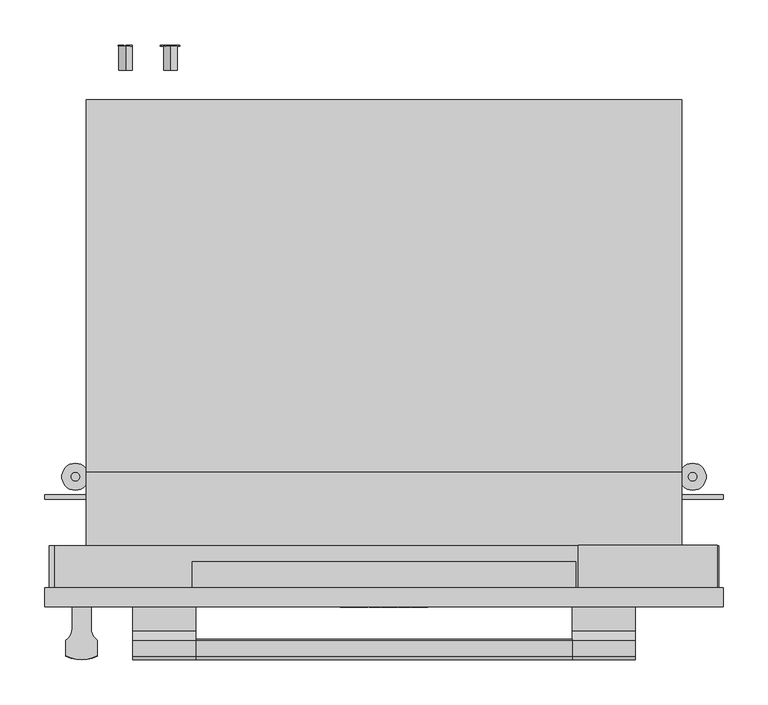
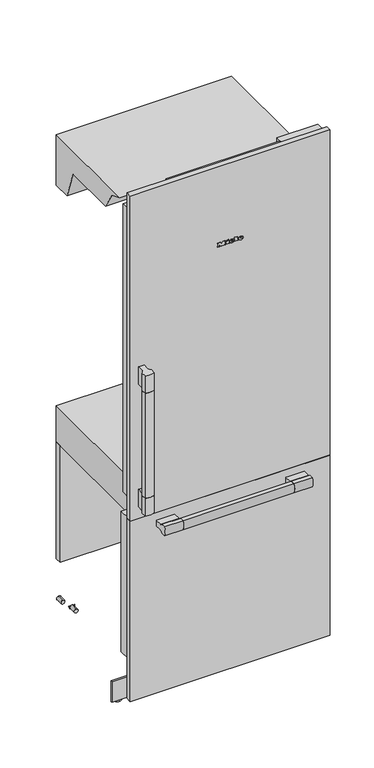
"""IFC4 building model written with IfcOpenShell, lengths in millimetres: proxy geometry, 11502900_USA_KF2802SF : 38280211_USA_11502900_KF2802SF."""

from ifc_helpers import new_model, si_unit, point, frame, frame_2d, origin, place, context, project, spatial, polyline, circle_curve, ellipse_curve, trimmed, segment, composite_curve, outline, extrude, source, transform, mapped, element, save
from ifc_brep_helpers import plane_surface, cylinder_surface, revolved_surface, extruded_surface, advanced_brep


def specialty_equipment_bdf38fb7(model_context):
    return source(origin(), model_context, "Body", "SolidModel", [
        extrude(outline(polyline([(247.0, -133.0), (205.0, -133.0), (205.0, -118.5), (90.0, -118.5), (90.0, -105.5), (205.0, -105.5), (205.0, -91.0), (247.0, -91.0), (247.0, -133.0)])), frame((0.0, 21.0, 0.0), z_axis=(0.0, 1.0, 0.0), x_axis=(0.0, 0.0, 1.0)), (0.0, 0.0, 1.0), 54.0),
        extrude(outline(polyline([(-367.0, 68.0), (367.0, 68.0), (367.0, 21.0), (-367.0, 21.0), (-367.0, 68.0)])), frame((0.0, 0.0, 883.0), z_axis=(0.0, 0.0, 1.0), x_axis=(1.0, 0.0, 0.0)), (0.0, 0.0, 1.0), 1153.0),
        extrude(outline(polyline([(-373.0, 68.0), (373.0, 68.0), (373.0, 21.0), (-373.0, 21.0), (-373.0, 68.0)])), frame((0.0, 0.0, 247.0), z_axis=(0.0, 0.0, 1.0), x_axis=(1.0, 0.0, 0.0)), (0.0, 0.0, 1.0), 562.0),
        extrude(outline(polyline([(-213.5, 50.0), (213.5, 50.0), (213.5, 21.0), (-213.5, 21.0), (-213.5, 50.0)])), frame((0.0, 0.0, 2036.0), z_axis=(0.0, 0.0, 1.0), x_axis=(1.0, 0.0, 0.0)), (0.0, 0.0, 1.0), 56.0),
        extrude(outline(polyline([(-378.0, 21.0), (378.0, 21.0), (378.0, 0.0), (-378.0, 0.0), (-378.0, 21.0)])), frame((0.0, 0.0, 812.0), z_axis=(0.0, 0.0, 1.0), x_axis=(1.0, 0.0, 0.0)), (0.0, 0.0, 1.0), 1299.0),
        advanced_brep(
        [(-210.0, -37.692095, 787.5), (-210.0, -55.0, 787.5), (-210.0, -59.0, 770.0), (-210.0, -55.0, 752.5), (-210.0, -37.692095, 752.5), (-210.0, -27.0, 759.5), (-210.0, 0.0, 759.5), (-210.0, 0.0, 780.5), (-210.0, -27.0, 780.5), (-280.0, 0.0, 780.5), (-280.0, 0.0, 759.5), (-280.0, -27.0, 759.5), (-280.0, -37.692095, 752.5), (-280.0, -55.0, 752.5), (-280.0, -59.0, 770.0), (-280.0, -55.0, 787.5), (-280.0, -37.692095, 787.5), (-280.0, -27.0, 780.5)],
        [
            (0, 1),
            (1, 2, circle_curve(frame((-210.0, -18.71875, 770.0), z_axis=(1.0, 0.0, 0.0), x_axis=(0.0, 0.0, 1.0)), 40.28125)),
            (2, 3, circle_curve(frame((-210.0, -18.71875, 770.0), z_axis=(1.0, 0.0, 0.0), x_axis=(0.0, 0.0, 1.0)), 40.28125)),
            (3, 4),
            (4, 5, circle_curve(frame((-210.0, -27.0, 747.8342217), z_axis=(-1.0, 0.0, 0.0), x_axis=(0.0, 0.0, 1.0)), 11.6657783)),
            (5, 6),
            (6, 7),
            (7, 8),
            (8, 0, circle_curve(frame((-210.0, -27.0, 792.1657783), z_axis=(-1.0, 0.0, 0.0), x_axis=(0.0, 0.0, 1.0)), 11.6657783)),
            (9, 10),
            (10, 11),
            (11, 12, circle_curve(frame((-280.0, -27.0, 747.8342217), z_axis=(1.0, 0.0, 0.0), x_axis=(0.0, 0.0, 1.0)), 11.6657783)),
            (12, 13),
            (13, 14, circle_curve(frame((-280.0, -18.71875, 770.0), z_axis=(-1.0, 0.0, 0.0), x_axis=(0.0, 0.0, 1.0)), 40.28125)),
            (14, 15, circle_curve(frame((-280.0, -18.71875, 770.0), z_axis=(-1.0, 0.0, 0.0), x_axis=(0.0, 0.0, 1.0)), 40.28125)),
            (15, 16),
            (16, 17, circle_curve(frame((-280.0, -27.0, 792.1657783), z_axis=(1.0, 0.0, 0.0), x_axis=(0.0, 0.0, 1.0)), 11.6657783)),
            (17, 9),
            (0, 16),
            (15, 1),
            (3, 13),
            (12, 4),
            (6, 10),
            (9, 7),
            (17, 8),
            (5, 11),
        ],
        [
            plane_surface(frame((-210.0, -59.0, 787.5), z_axis=(1.0, 0.0, 0.0), x_axis=(0.0, -1.0, 0.0))),
            plane_surface(frame((-280.0, -59.0, 787.5), z_axis=(-1.0, 0.0, 0.0), x_axis=(0.0, 1.0, 0.0))),
            plane_surface(frame((-210.0, 0.0, 787.5), z_axis=(0.0, 0.0, 1.0), x_axis=(-1.0, 0.0, 0.0))),
            plane_surface(frame((-210.0, -59.0, 752.5), z_axis=(0.0, 0.0, -1.0), x_axis=(-1.0, 0.0, 0.0))),
            plane_surface(frame((-210.0, 0.0, 752.5), z_axis=(0.0, 1.0, 0.0), x_axis=(-1.0, 0.0, 0.0))),
            plane_surface(frame((280.0, -27.0, 780.5), z_axis=(0.0, 0.0, 1.0), x_axis=(-1.0, 0.0, 0.0))),
            plane_surface(frame((280.0, 0.0, 759.5), z_axis=(0.0, 0.0, -1.0), x_axis=(-1.0, 0.0, 0.0))),
            revolved_surface(polyline([(-210.0, -27.0, 759.5), (-280.0, -27.0, 759.5)]), (-280.0, -27.0, 747.8342217), (1.0, 0.0, 0.0)),
            cylinder_surface(frame((-280.0, -18.71875, 770.0), z_axis=(-1.0, 0.0, 0.0), x_axis=(0.0, 0.0, 1.0)), 40.28125),
            revolved_surface(polyline([(-210.0, -27.0, 803.8315566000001), (-280.0, -27.0, 803.8315566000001)]), (-280.0, -27.0, 792.1657783), (1.0, 0.0, 0.0)),
        ],
        [
            (0, [[1, 2, 3, 4, 5, 6, 7, 8, 9]]),
            (1, [[10, 11, 12, 13, 14, 15, 16, 17, 18]]),
            (2, [[-1, 19, -16, 20]]),
            (3, [[-4, 21, -13, 22]]),
            (4, [[-7, 23, -10, 24]]),
            (5, [[25, -8, -24, -18]]),
            (6, [[26, -11, -23, -6]]),
            (7, [[-26, -5, -22, -12]]),
            (8, [[-2, -20, -15, -14, -21, -3]]),
            (9, [[-25, -17, -19, -9]]),
        ],
    ),
        advanced_brep(
        [(210.0, -37.692095, 787.5), (210.0, -55.0, 787.5), (210.0, -59.0, 770.0), (210.0, -55.0, 752.5), (210.0, -37.692095, 752.5), (210.0, -36.0, 755.2565113), (210.0, -36.0, 784.7434887), (-210.0, -37.692095, 752.5), (-210.0, -55.0, 752.5), (-210.0, -59.0, 770.0), (-210.0, -55.0, 787.5), (-210.0, -37.692095, 787.5), (-210.0, -36.0, 784.7434887), (-210.0, -36.0, 755.2565113)],
        [
            (0, 1),
            (1, 2, circle_curve(frame((210.0, -18.71875, 770.0), z_axis=(1.0, 0.0, 0.0), x_axis=(0.0, 0.0, 1.0)), 40.28125)),
            (2, 3, circle_curve(frame((210.0, -18.71875, 770.0), z_axis=(1.0, 0.0, 0.0), x_axis=(0.0, 0.0, 1.0)), 40.28125)),
            (3, 4),
            (4, 5, circle_curve(frame((210.0, -27.0, 747.8342217), z_axis=(-1.0, 0.0, 0.0), x_axis=(0.0, 0.0, 1.0)), 11.6657783)),
            (5, 6),
            (6, 0, circle_curve(frame((210.0, -27.0, 792.1657783), z_axis=(-1.0, 0.0, 0.0), x_axis=(0.0, 0.0, 1.0)), 11.6657783)),
            (7, 8),
            (8, 9, circle_curve(frame((-210.0, -18.71875, 770.0), z_axis=(-1.0, 0.0, 0.0), x_axis=(0.0, 0.0, 1.0)), 40.28125)),
            (9, 10, circle_curve(frame((-210.0, -18.71875, 770.0), z_axis=(-1.0, 0.0, 0.0), x_axis=(0.0, 0.0, 1.0)), 40.28125)),
            (10, 11),
            (11, 12, circle_curve(frame((-210.0, -27.0, 792.1657783), z_axis=(1.0, 0.0, 0.0), x_axis=(0.0, 0.0, 1.0)), 11.6657783)),
            (12, 13),
            (13, 7, circle_curve(frame((-210.0, -27.0, 747.8342217), z_axis=(1.0, 0.0, 0.0), x_axis=(0.0, 0.0, 1.0)), 11.6657783)),
            (0, 11),
            (10, 1),
            (3, 8),
            (7, 4),
            (13, 5),
            (6, 12),
        ],
        [
            plane_surface(frame((210.0, -59.0, 787.5), z_axis=(1.0, 0.0, 0.0), x_axis=(0.0, -1.0, 0.0))),
            plane_surface(frame((-210.0, -59.0, 787.5), z_axis=(-1.0, 0.0, 0.0), x_axis=(0.0, 1.0, 0.0))),
            plane_surface(frame((210.0, 0.0, 787.5), z_axis=(0.0, 0.0, 1.0), x_axis=(-1.0, 0.0, 0.0))),
            plane_surface(frame((210.0, -59.0, 752.5), z_axis=(0.0, 0.0, -1.0), x_axis=(-1.0, 0.0, 0.0))),
            revolved_surface(polyline([(210.0, -27.0, 759.5), (-210.0, -27.0, 759.5)]), (-280.0, -27.0, 747.8342217), (1.0, 0.0, 0.0)),
            cylinder_surface(frame((-280.0, -18.71875, 770.0), z_axis=(-1.0, 0.0, 0.0), x_axis=(0.0, 0.0, 1.0)), 40.28125),
            revolved_surface(polyline([(210.0, -27.0, 803.8315566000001), (-210.0, -27.0, 803.8315566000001)]), (-280.0, -27.0, 792.1657783), (1.0, 0.0, 0.0)),
            plane_surface(frame((210.0, -36.0, 788.0), z_axis=(0.0, 1.0, 0.0), x_axis=(-1.0, 0.0, 0.0))),
        ],
        [
            (0, [[1, 2, 3, 4, 5, 6, 7]]),
            (1, [[8, 9, 10, 11, 12, 13, 14]]),
            (2, [[-1, 15, -11, 16]]),
            (3, [[-4, 17, -8, 18]]),
            (4, [[-18, -14, 19, -5]]),
            (5, [[-2, -16, -10, -9, -17, -3]]),
            (6, [[-15, -7, 20, -12]]),
            (7, [[-6, -19, -13, -20]]),
        ],
    ),
        advanced_brep(
        [(280.0, -37.692095, 787.5), (280.0, -55.0, 787.5), (280.0, -59.0, 770.0), (280.0, -55.0, 752.5), (280.0, -37.692095, 752.5), (280.0, -27.0, 759.5), (280.0, 0.0, 759.5), (280.0, 0.0, 780.5), (280.0, -27.0, 780.5), (210.0, 0.0, 780.5), (210.0, 0.0, 759.5), (210.0, -27.0, 759.5), (210.0, -37.692095, 752.5), (210.0, -55.0, 752.5), (210.0, -59.0, 770.0), (210.0, -55.0, 787.5), (210.0, -37.692095, 787.5), (210.0, -27.0, 780.5)],
        [
            (0, 1),
            (1, 2, circle_curve(frame((280.0, -18.71875, 770.0), z_axis=(1.0, 0.0, 0.0), x_axis=(0.0, 0.0, 1.0)), 40.28125)),
            (2, 3, circle_curve(frame((280.0, -18.71875, 770.0), z_axis=(1.0, 0.0, 0.0), x_axis=(0.0, 0.0, 1.0)), 40.28125)),
            (3, 4),
            (4, 5, circle_curve(frame((280.0, -27.0, 747.8342217), z_axis=(-1.0, 0.0, 0.0), x_axis=(0.0, 0.0, 1.0)), 11.6657783)),
            (5, 6),
            (6, 7),
            (7, 8),
            (8, 0, circle_curve(frame((280.0, -27.0, 792.1657783), z_axis=(-1.0, 0.0, 0.0), x_axis=(0.0, 0.0, 1.0)), 11.6657783)),
            (9, 10),
            (10, 11),
            (11, 12, circle_curve(frame((210.0, -27.0, 747.8342217), z_axis=(1.0, 0.0, 0.0), x_axis=(0.0, 0.0, 1.0)), 11.6657783)),
            (12, 13),
            (13, 14, circle_curve(frame((210.0, -18.71875, 770.0), z_axis=(-1.0, 0.0, 0.0), x_axis=(0.0, 0.0, 1.0)), 40.28125)),
            (14, 15, circle_curve(frame((210.0, -18.71875, 770.0), z_axis=(-1.0, 0.0, 0.0), x_axis=(0.0, 0.0, 1.0)), 40.28125)),
            (15, 16),
            (16, 17, circle_curve(frame((210.0, -27.0, 792.1657783), z_axis=(1.0, 0.0, 0.0), x_axis=(0.0, 0.0, 1.0)), 11.6657783)),
            (17, 9),
            (0, 16),
            (15, 1),
            (3, 13),
            (12, 4),
            (6, 10),
            (9, 7),
            (17, 8),
            (5, 11),
        ],
        [
            plane_surface(frame((280.0, -59.0, 787.5), z_axis=(1.0, 0.0, 0.0), x_axis=(0.0, -1.0, 0.0))),
            plane_surface(frame((210.0, -59.0, 787.5), z_axis=(-1.0, 0.0, 0.0), x_axis=(0.0, 1.0, 0.0))),
            plane_surface(frame((280.0, 0.0, 787.5), z_axis=(0.0, 0.0, 1.0), x_axis=(-1.0, 0.0, 0.0))),
            plane_surface(frame((280.0, -59.0, 752.5), z_axis=(0.0, 0.0, -1.0), x_axis=(-1.0, 0.0, 0.0))),
            plane_surface(frame((280.0, 0.0, 752.5), z_axis=(0.0, 1.0, 0.0), x_axis=(-1.0, 0.0, 0.0))),
            plane_surface(frame((280.0, -27.0, 780.5), z_axis=(0.0, 0.0, 1.0), x_axis=(-1.0, 0.0, 0.0))),
            plane_surface(frame((280.0, 0.0, 759.5), z_axis=(0.0, 0.0, -1.0), x_axis=(-1.0, 0.0, 0.0))),
            revolved_surface(polyline([(280.0, -27.0, 759.5), (210.0, -27.0, 759.5)]), (-280.0, -27.0, 747.8342217), (1.0, 0.0, 0.0)),
            cylinder_surface(frame((-280.0, -18.71875, 770.0), z_axis=(-1.0, 0.0, 0.0), x_axis=(0.0, 0.0, 1.0)), 40.28125),
            revolved_surface(polyline([(280.0, -27.0, 803.8315566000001), (210.0, -27.0, 803.8315566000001)]), (-280.0, -27.0, 792.1657783), (1.0, 0.0, 0.0)),
        ],
        [
            (0, [[1, 2, 3, 4, 5, 6, 7, 8, 9]]),
            (1, [[10, 11, 12, 13, 14, 15, 16, 17, 18]]),
            (2, [[-1, 19, -16, 20]]),
            (3, [[-4, 21, -13, 22]]),
            (4, [[-7, 23, -10, 24]]),
            (5, [[25, -8, -24, -18]]),
            (6, [[26, -11, -23, -6]]),
            (7, [[-26, -5, -22, -12]]),
            (8, [[-2, -20, -15, -14, -21, -3]]),
            (9, [[-25, -17, -19, -9]]),
        ],
    ),
        extrude(outline(polyline([(-378.0, 21.0), (378.0, 21.0), (378.0, 0.0), (-378.0, 0.0), (-378.0, 21.0)])), frame((0.0, 0.0, 90.0), z_axis=(0.0, 0.0, 1.0), x_axis=(1.0, 0.0, 0.0)), (0.0, 0.0, 1.0), 721.0),
        advanced_brep(
        [(-326.5, 0.0, 928.0), (-347.5, 0.0, 928.0), (-347.5, -24.4390599, 928.0), (-354.5, -37.4390599, 928.0), (-354.5, -55.0, 928.0), (-337.0, -59.0, 928.0), (-319.5, -55.0, 928.0), (-319.5, -37.4390599, 928.0), (-326.5, -24.4390599, 928.0), (-319.5, -37.4390599, 858.0), (-319.5, -55.0, 858.0), (-337.0, -59.0, 858.0), (-354.5, -55.0, 858.0), (-354.5, -37.4390599, 858.0), (-347.5, -24.4390599, 858.0), (-347.5, 0.0, 858.0), (-326.5, 0.0, 858.0), (-326.5, -24.4390599, 858.0)],
        [
            (0, 1),
            (1, 2),
            (2, 3, circle_curve(frame((-363.0714286, -24.4390599, 928.0), z_axis=(0.0, 0.0, -1.0), x_axis=(-1.0, 0.0, 0.0)), 15.5714286)),
            (3, 4),
            (4, 5, circle_curve(frame((-337.0, -18.71875, 928.0), z_axis=(0.0, 0.0, 1.0), x_axis=(-1.0, 0.0, 0.0)), 40.28125)),
            (5, 6, circle_curve(frame((-337.0, -18.71875, 928.0), z_axis=(0.0, 0.0, 1.0), x_axis=(-1.0, 0.0, 0.0)), 40.28125)),
            (6, 7),
            (7, 8, circle_curve(frame((-310.9285714, -24.4390599, 928.0), z_axis=(0.0, 0.0, -1.0), x_axis=(-1.0, 0.0, 0.0)), 15.5714286)),
            (8, 0),
            (9, 10),
            (10, 11, circle_curve(frame((-337.0, -18.71875, 858.0), z_axis=(0.0, 0.0, -1.0), x_axis=(-1.0, 0.0, 0.0)), 40.28125)),
            (11, 12, circle_curve(frame((-337.0, -18.71875, 858.0), z_axis=(0.0, 0.0, -1.0), x_axis=(-1.0, 0.0, 0.0)), 40.28125)),
            (12, 13),
            (13, 14, circle_curve(frame((-363.0714286, -24.4390599, 858.0), z_axis=(0.0, 0.0, 1.0), x_axis=(-1.0, 0.0, 0.0)), 15.5714286)),
            (14, 15),
            (15, 16),
            (16, 17),
            (17, 9, circle_curve(frame((-310.9285714, -24.4390599, 858.0), z_axis=(0.0, 0.0, 1.0), x_axis=(-1.0, 0.0, 0.0)), 15.5714286)),
            (0, 16),
            (15, 1),
            (3, 13),
            (12, 4),
            (6, 10),
            (9, 7),
            (14, 2),
            (8, 17),
        ],
        [
            plane_surface(frame((-354.5, 0.0, 928.0), z_axis=(0.0, 0.0, 1.0), x_axis=(-1.0, 0.0, 0.0))),
            plane_surface(frame((-354.5, 0.0, 858.0), z_axis=(0.0, 0.0, -1.0), x_axis=(1.0, 0.0, 0.0))),
            plane_surface(frame((-319.5, 0.0, 928.0), z_axis=(0.0, 1.0, 0.0), x_axis=(0.0, 0.0, -1.0))),
            plane_surface(frame((-354.5, 0.0, 928.0), z_axis=(-1.0, 0.0, 0.0), x_axis=(0.0, 0.0, -1.0))),
            plane_surface(frame((-319.5, -59.0, 928.0), z_axis=(1.0, 0.0, 0.0), x_axis=(0.0, 0.0, -1.0))),
            plane_surface(frame((-347.5, -24.4390599, 1418.0), z_axis=(-1.0, 0.0, 0.0), x_axis=(0.0, 0.0, -1.0))),
            plane_surface(frame((-326.5, 0.0, 1418.0), z_axis=(1.0, 0.0, 0.0), x_axis=(0.0, 0.0, -1.0))),
            cylinder_surface(frame((-337.0, -18.71875, 858.0), z_axis=(0.0, 0.0, -1.0), x_axis=(-1.0, 0.0, 0.0)), 40.28125),
            revolved_surface(polyline([(-378.6428572, -24.4390599, 928.0), (-378.6428572, -24.4390599, 858.0)]), (-363.0714286, -24.4390599, 858.0), (0.0, 0.0, 1.0)),
            revolved_surface(polyline([(-326.5, -24.4390599, 928.0), (-326.5, -24.4390599, 858.0)]), (-310.9285714, -24.4390599, 858.0), (0.0, 0.0, 1.0)),
        ],
        [
            (0, [[1, 2, 3, 4, 5, 6, 7, 8, 9]]),
            (1, [[10, 11, 12, 13, 14, 15, 16, 17, 18]]),
            (2, [[-1, 19, -16, 20]]),
            (3, [[-4, 21, -13, 22]]),
            (4, [[-7, 23, -10, 24]]),
            (5, [[25, -2, -20, -15]]),
            (6, [[26, -17, -19, -9]]),
            (7, [[-5, -22, -12, -11, -23, -6]]),
            (8, [[-25, -14, -21, -3]]),
            (9, [[-26, -8, -24, -18]]),
        ],
    ),
        advanced_brep(
        [(-319.5, -37.4390599, 928.0), (-319.5, -55.0, 928.0), (-337.0, -59.0, 928.0), (-354.5, -55.0, 928.0), (-354.5, -37.4390599, 928.0), (-352.6400312, -36.0, 928.0), (-321.3599688, -36.0, 928.0), (-321.3599688, -36.0, 1348.0), (-352.6400312, -36.0, 1348.0), (-354.5, -37.4390599, 1348.0), (-354.5, -55.0, 1348.0), (-337.0, -59.0, 1348.0), (-319.5, -55.0, 1348.0), (-319.5, -37.4390599, 1348.0)],
        [
            (0, 1),
            (1, 2, circle_curve(frame((-337.0, -18.71875, 928.0), z_axis=(0.0, 0.0, -1.0), x_axis=(-1.0, 0.0, 0.0)), 40.28125)),
            (2, 3, circle_curve(frame((-337.0, -18.71875, 928.0), z_axis=(0.0, 0.0, -1.0), x_axis=(-1.0, 0.0, 0.0)), 40.28125)),
            (3, 4),
            (4, 5, circle_curve(frame((-363.0714286, -24.4390599, 928.0), z_axis=(0.0, 0.0, 1.0), x_axis=(-1.0, 0.0, 0.0)), 15.5714286)),
            (5, 6),
            (6, 0, circle_curve(frame((-310.9285714, -24.4390599, 928.0), z_axis=(0.0, 0.0, 1.0), x_axis=(-1.0, 0.0, 0.0)), 15.5714286)),
            (7, 8),
            (8, 9, circle_curve(frame((-363.0714286, -24.4390599, 1348.0), z_axis=(0.0, 0.0, -1.0), x_axis=(-1.0, 0.0, 0.0)), 15.5714286)),
            (9, 10),
            (10, 11, circle_curve(frame((-337.0, -18.71875, 1348.0), z_axis=(0.0, 0.0, 1.0), x_axis=(-1.0, 0.0, 0.0)), 40.28125)),
            (11, 12, circle_curve(frame((-337.0, -18.71875, 1348.0), z_axis=(0.0, 0.0, 1.0), x_axis=(-1.0, 0.0, 0.0)), 40.28125)),
            (12, 13),
            (13, 7, circle_curve(frame((-310.9285714, -24.4390599, 1348.0), z_axis=(0.0, 0.0, -1.0), x_axis=(-1.0, 0.0, 0.0)), 15.5714286)),
            (0, 13),
            (12, 1),
            (3, 10),
            (9, 4),
            (5, 8),
            (7, 6),
        ],
        [
            plane_surface(frame((-319.5, -36.0, 928.0), z_axis=(0.0, 0.0, -1.0), x_axis=(0.0, -1.0, 0.0))),
            plane_surface(frame((-319.5, -36.0, 1348.0), z_axis=(0.0, 0.0, 1.0), x_axis=(0.0, 1.0, 0.0))),
            plane_surface(frame((-319.5, -36.0, 928.0), z_axis=(1.0, 0.0, 0.0), x_axis=(0.0, 0.0, 1.0))),
            plane_surface(frame((-354.5, -59.0, 928.0), z_axis=(-1.0, 0.0, 0.0), x_axis=(0.0, 0.0, 1.0))),
            plane_surface(frame((-354.5, -36.0, 928.0), z_axis=(0.0, 1.0, 0.0), x_axis=(0.0, 0.0, 1.0))),
            cylinder_surface(frame((-337.0, -18.71875, 858.0), z_axis=(0.0, 0.0, -1.0), x_axis=(-1.0, 0.0, 0.0)), 40.28125),
            revolved_surface(polyline([(-378.6428572, -24.4390599, 1348.0), (-378.6428572, -24.4390599, 928.0)]), (-363.0714286, -24.4390599, 858.0), (0.0, 0.0, 1.0)),
            revolved_surface(polyline([(-326.5, -24.4390599, 1348.0), (-326.5, -24.4390599, 928.0)]), (-310.9285714, -24.4390599, 858.0), (0.0, 0.0, 1.0)),
        ],
        [
            (0, [[1, 2, 3, 4, 5, 6, 7]]),
            (1, [[8, 9, 10, 11, 12, 13, 14]]),
            (2, [[-1, 15, -13, 16]]),
            (3, [[-4, 17, -10, 18]]),
            (4, [[-6, 19, -8, 20]]),
            (5, [[-2, -16, -12, -11, -17, -3]]),
            (6, [[-5, -18, -9, -19]]),
            (7, [[-7, -20, -14, -15]]),
        ],
    ),
        advanced_brep(
        [(-319.5, -37.4390599, 1348.0), (-319.5, -55.0, 1348.0), (-337.0, -59.0, 1348.0), (-354.5, -55.0, 1348.0), (-354.5, -37.4390599, 1348.0), (-347.5, -24.4390599, 1348.0), (-347.5, 0.0, 1348.0), (-326.5, 0.0, 1348.0), (-326.5, -24.4390599, 1348.0), (-326.5, 0.0, 1418.0), (-347.5, 0.0, 1418.0), (-347.5, -24.4390599, 1418.0), (-354.5, -37.4390599, 1418.0), (-354.5, -55.0, 1418.0), (-337.0, -59.0, 1418.0), (-319.5, -55.0, 1418.0), (-319.5, -37.4390599, 1418.0), (-326.5, -24.4390599, 1418.0)],
        [
            (0, 1),
            (1, 2, circle_curve(frame((-337.0, -18.71875, 1348.0), z_axis=(0.0, 0.0, -1.0), x_axis=(-1.0, 0.0, 0.0)), 40.28125)),
            (2, 3, circle_curve(frame((-337.0, -18.71875, 1348.0), z_axis=(0.0, 0.0, -1.0), x_axis=(-1.0, 0.0, 0.0)), 40.28125)),
            (3, 4),
            (4, 5, circle_curve(frame((-363.0714286, -24.4390599, 1348.0), z_axis=(0.0, 0.0, 1.0), x_axis=(-1.0, 0.0, 0.0)), 15.5714286)),
            (5, 6),
            (6, 7),
            (7, 8),
            (8, 0, circle_curve(frame((-310.9285714, -24.4390599, 1348.0), z_axis=(0.0, 0.0, 1.0), x_axis=(-1.0, 0.0, 0.0)), 15.5714286)),
            (9, 10),
            (10, 11),
            (11, 12, circle_curve(frame((-363.0714286, -24.4390599, 1418.0), z_axis=(0.0, 0.0, -1.0), x_axis=(-1.0, 0.0, 0.0)), 15.5714286)),
            (12, 13),
            (13, 14, circle_curve(frame((-337.0, -18.71875, 1418.0), z_axis=(0.0, 0.0, 1.0), x_axis=(-1.0, 0.0, 0.0)), 40.28125)),
            (14, 15, circle_curve(frame((-337.0, -18.71875, 1418.0), z_axis=(0.0, 0.0, 1.0), x_axis=(-1.0, 0.0, 0.0)), 40.28125)),
            (15, 16),
            (16, 17, circle_curve(frame((-310.9285714, -24.4390599, 1418.0), z_axis=(0.0, 0.0, -1.0), x_axis=(-1.0, 0.0, 0.0)), 15.5714286)),
            (17, 9),
            (6, 10),
            (9, 7),
            (3, 13),
            (12, 4),
            (0, 16),
            (15, 1),
            (5, 11),
            (17, 8),
        ],
        [
            plane_surface(frame((-354.5, 0.0, 1348.0), z_axis=(0.0, 0.0, -1.0), x_axis=(1.0, 0.0, 0.0))),
            plane_surface(frame((-354.5, 0.0, 1418.0), z_axis=(0.0, 0.0, 1.0), x_axis=(-1.0, 0.0, 0.0))),
            plane_surface(frame((-319.5, 0.0, 1418.0), z_axis=(0.0, 1.0, 0.0), x_axis=(0.0, 0.0, -1.0))),
            plane_surface(frame((-354.5, 0.0, 1418.0), z_axis=(-1.0, 0.0, 0.0), x_axis=(0.0, 0.0, -1.0))),
            plane_surface(frame((-319.5, -59.0, 1418.0), z_axis=(1.0, 0.0, 0.0), x_axis=(0.0, 0.0, -1.0))),
            plane_surface(frame((-347.5, -24.4390599, 1418.0), z_axis=(-1.0, 0.0, 0.0), x_axis=(0.0, 0.0, -1.0))),
            plane_surface(frame((-326.5, 0.0, 1418.0), z_axis=(1.0, 0.0, 0.0), x_axis=(0.0, 0.0, -1.0))),
            cylinder_surface(frame((-337.0, -18.71875, 858.0), z_axis=(0.0, 0.0, -1.0), x_axis=(-1.0, 0.0, 0.0)), 40.28125),
            revolved_surface(polyline([(-378.6428572, -24.4390599, 1418.0), (-378.6428572, -24.4390599, 1348.0)]), (-363.0714286, -24.4390599, 858.0), (0.0, 0.0, 1.0)),
            revolved_surface(polyline([(-326.5, -24.4390599, 1418.0), (-326.5, -24.4390599, 1348.0)]), (-310.9285714, -24.4390599, 858.0), (0.0, 0.0, 1.0)),
        ],
        [
            (0, [[1, 2, 3, 4, 5, 6, 7, 8, 9]]),
            (1, [[10, 11, 12, 13, 14, 15, 16, 17, 18]]),
            (2, [[-7, 19, -10, 20]]),
            (3, [[-4, 21, -13, 22]]),
            (4, [[-1, 23, -16, 24]]),
            (5, [[25, -11, -19, -6]]),
            (6, [[26, -8, -20, -18]]),
            (7, [[-2, -24, -15, -14, -21, -3]]),
            (8, [[-25, -5, -22, -12]]),
            (9, [[-26, -17, -23, -9]]),
        ],
    ),
        advanced_brep(
        [(38.22, -1.0, 1795.792), (38.22, -1.0, 1797.408), (48.924, -1.0, 1797.408), (30.3, -1.0, 1797.408), (34.7, -1.0, 1792.0), (48.652, -1.0, 1795.792), (43.82, -1.0, 1795.792), (40.012, -1.0, 1794.0), (38.22, -1.0, 1799.456), (38.22, -1.0, 1801.2), (40.956, -1.0, 1801.2), (40.956, -1.0, 1799.456), (38.22, 0.0, 1795.792), (40.012, 0.0, 1794.0), (43.82, 0.0, 1795.792), (48.652, 0.0, 1795.792), (34.7, 0.0, 1792.0), (30.3, 0.0, 1797.408), (48.924, 0.0, 1797.408), (38.22, 0.0, 1797.408), (38.22, 0.0, 1799.456), (40.956, 0.0, 1799.456), (40.956, 0.0, 1801.2), (38.22, 0.0, 1801.2)],
        [
            (0, 1),
            (1, 2),
            (2, 3, ellipse_curve(frame((39.612, -1.0, 1797.408), z_axis=(0.0, -1.0, 0.0), x_axis=(-1.0, 0.0, 0.0)), 9.312, 7.696)),
            (3, 4, circle_curve(frame((36.4920873, -1.0, 1797.952), z_axis=(0.0, -1.0, 0.0), x_axis=(0.0, 0.0, -1.0)), 6.2159376)),
            (4, 5, circle_curve(frame((39.4255872, -1.0, 1802.176), z_axis=(0.0, -1.0, 0.0), x_axis=(0.0, 0.0, -1.0)), 11.2197215)),
            (5, 6),
            (6, 7, circle_curve(frame((40.7941176, -1.0, 1797.28), z_axis=(0.0, 1.0, 0.0), x_axis=(0.0, 0.0, -1.0)), 3.3719591)),
            (7, 0, circle_curve(frame((40.012, -1.0, 1795.792), z_axis=(0.0, 1.0, 0.0), x_axis=(0.0, 0.0, -1.0)), 1.792)),
            (8, 9),
            (9, 10, circle_curve(frame((39.588, -1.0, 1801.2), z_axis=(0.0, 1.0, 0.0), x_axis=(0.0, 0.0, -1.0)), 1.368)),
            (10, 11),
            (11, 8),
            (12, 13, circle_curve(frame((40.012, 0.0, 1795.792), z_axis=(0.0, -1.0, 0.0), x_axis=(0.0, 0.0, -1.0)), 1.792)),
            (13, 14, circle_curve(frame((40.7941176, 0.0, 1797.28), z_axis=(0.0, -1.0, 0.0), x_axis=(0.0, 0.0, -1.0)), 3.3719591)),
            (14, 15),
            (15, 16, circle_curve(frame((39.4255872, 0.0, 1802.176), z_axis=(0.0, 1.0, 0.0), x_axis=(0.0, 0.0, -1.0)), 11.2197215)),
            (16, 17, circle_curve(frame((36.4920873, 0.0, 1797.952), z_axis=(0.0, 1.0, 0.0), x_axis=(0.0, 0.0, -1.0)), 6.2159376)),
            (17, 18, ellipse_curve(frame((39.612, 0.0, 1797.408), z_axis=(0.0, 1.0, 0.0), x_axis=(-1.0, 0.0, 0.0)), 9.312, 7.696)),
            (18, 19),
            (19, 12),
            (20, 21),
            (21, 22),
            (22, 23, circle_curve(frame((39.588, 0.0, 1801.2), z_axis=(0.0, -1.0, 0.0), x_axis=(0.0, 0.0, -1.0)), 1.368)),
            (23, 20),
            (0, 12),
            (19, 1),
            (18, 2),
            (5, 15),
            (14, 6),
            (17, 3),
            (13, 7),
            (16, 4),
            (8, 20),
            (23, 9),
            (22, 10),
            (21, 11),
        ],
        [
            plane_surface(frame((38.22, -1.0, 1797.408), z_axis=(0.0, -1.0, 0.0), x_axis=(0.0, 0.0, 1.0))),
            plane_surface(frame((38.22, 0.0, 1797.408), z_axis=(0.0, 1.0, 0.0), x_axis=(0.0, 0.0, -1.0))),
            plane_surface(frame((38.22, -1.0, 1795.792), z_axis=(1.0, 0.0, 0.0), x_axis=(0.0, 1.0, 0.0))),
            plane_surface(frame((38.22, -1.0, 1797.408), z_axis=(0.0, 0.0, -1.0), x_axis=(0.0, 1.0, 0.0))),
            plane_surface(frame((48.652, -1.0, 1795.792), z_axis=(0.0, 0.0, 1.0), x_axis=(0.0, 1.0, 0.0))),
            extruded_surface(trimmed(ellipse_curve(frame((39.612, 1.0, 1797.408), z_axis=(0.0, -1.0, 0.0), x_axis=(-1.0, 0.0, 0.0)), 9.312, 7.696), [point((48.924, 1.0, 1797.408))], [point((30.3, 1.0, 1797.408))], True, "CARTESIAN"), (0.0, -1.0, 0.0), 1.0),
            revolved_surface(polyline([(40.7941176, 0.0, 1793.9080409), (40.7941176, -1.0, 1793.9080409)]), (40.7941176, 0.0, 1797.28), (0.0, 1.0, 0.0)),
            revolved_surface(polyline([(40.012, 0.0, 1794.0), (40.012, -1.0, 1794.0)]), (40.012, 0.0, 1795.792), (0.0, 1.0, 0.0)),
            cylinder_surface(frame((36.4920873, 0.0, 1797.952), z_axis=(0.0, -1.0, 0.0), x_axis=(0.0, 0.0, -1.0)), 6.2159376),
            cylinder_surface(frame((39.4255872, 0.0, 1802.176), z_axis=(0.0, -1.0, 0.0), x_axis=(0.0, 0.0, -1.0)), 11.2197215),
            plane_surface(frame((38.22, -1.0, 1799.456), z_axis=(1.0, 0.0, 0.0), x_axis=(0.0, 1.0, 0.0))),
            revolved_surface(polyline([(39.588, 0.0, 1799.832), (39.588, -1.0, 1799.832)]), (39.588, 0.0, 1801.2), (0.0, 1.0, 0.0)),
            plane_surface(frame((40.956, -1.0, 1801.2), z_axis=(-1.0, 0.0, 0.0), x_axis=(0.0, 1.0, 0.0))),
            plane_surface(frame((40.956, -1.0, 1799.456), z_axis=(0.0, 0.0, 1.0), x_axis=(0.0, 1.0, 0.0))),
        ],
        [
            (0, [[1, 2, 3, 4, 5, 6, 7, 8], [9, 10, 11, 12]]),
            (1, [[13, 14, 15, 16, 17, 18, 19, 20], [21, 22, 23, 24]]),
            (2, [[-1, 25, -20, 26]]),
            (3, [[-2, -26, -19, 27]]),
            (4, [[-6, 28, -15, 29]]),
            (5, [[-3, -27, -18, 30]]),
            (6, [[-7, -29, -14, 31]]),
            (7, [[-8, -31, -13, -25]]),
            (8, [[-4, -30, -17, 32]]),
            (9, [[-5, -32, -16, -28]]),
            (10, [[-9, 33, -24, 34]]),
            (11, [[-10, -34, -23, 35]]),
            (12, [[-11, -35, -22, 36]]),
            (13, [[-12, -36, -21, -33]]),
        ],
    ),
        advanced_brep(
        [(4.828, -1.0, 1795.792), (4.828, -1.0, 1797.408), (15.532, -1.0, 1797.408), (-3.092, -1.0, 1797.408), (1.308, -1.0, 1792.0), (15.26, -1.0, 1795.792), (10.428, -1.0, 1795.792), (6.62, -1.0, 1794.0), (4.828, -1.0, 1799.456), (4.828, -1.0, 1801.2), (7.564, -1.0, 1801.2), (7.564, -1.0, 1799.456), (4.828, 0.0, 1795.792), (6.62, 0.0, 1794.0), (10.428, 0.0, 1795.792), (15.26, 0.0, 1795.792), (1.308, 0.0, 1792.0), (-3.092, 0.0, 1797.408), (15.532, 0.0, 1797.408), (4.828, 0.0, 1797.408), (4.828, 0.0, 1799.456), (7.564, 0.0, 1799.456), (7.564, 0.0, 1801.2), (4.828, 0.0, 1801.2)],
        [
            (0, 1),
            (1, 2),
            (2, 3, ellipse_curve(frame((6.22, -1.0, 1797.408), z_axis=(0.0, -1.0, 0.0), x_axis=(-1.0, 0.0, 0.0)), 9.312, 7.696)),
            (3, 4, circle_curve(frame((3.1000873, -1.0, 1797.952), z_axis=(0.0, -1.0, 0.0), x_axis=(0.0, 0.0, -1.0)), 6.2159376)),
            (4, 5, circle_curve(frame((6.0335872, -1.0, 1802.176), z_axis=(0.0, -1.0, 0.0), x_axis=(0.0, 0.0, -1.0)), 11.2197215)),
            (5, 6),
            (6, 7, circle_curve(frame((7.4021176, -1.0, 1797.28), z_axis=(0.0, 1.0, 0.0), x_axis=(0.0, 0.0, -1.0)), 3.3719591)),
            (7, 0, circle_curve(frame((6.62, -1.0, 1795.792), z_axis=(0.0, 1.0, 0.0), x_axis=(0.0, 0.0, -1.0)), 1.792)),
            (8, 9),
            (9, 10, circle_curve(frame((6.196, -1.0, 1801.2), z_axis=(0.0, 1.0, 0.0), x_axis=(0.0, 0.0, -1.0)), 1.368)),
            (10, 11),
            (11, 8),
            (12, 13, circle_curve(frame((6.62, 0.0, 1795.792), z_axis=(0.0, -1.0, 0.0), x_axis=(0.0, 0.0, -1.0)), 1.792)),
            (13, 14, circle_curve(frame((7.4021176, 0.0, 1797.28), z_axis=(0.0, -1.0, 0.0), x_axis=(0.0, 0.0, -1.0)), 3.3719591)),
            (14, 15),
            (15, 16, circle_curve(frame((6.0335872, 0.0, 1802.176), z_axis=(0.0, 1.0, 0.0), x_axis=(0.0, 0.0, -1.0)), 11.2197215)),
            (16, 17, circle_curve(frame((3.1000873, 0.0, 1797.952), z_axis=(0.0, 1.0, 0.0), x_axis=(0.0, 0.0, -1.0)), 6.2159376)),
            (17, 18, ellipse_curve(frame((6.22, 0.0, 1797.408), z_axis=(0.0, 1.0, 0.0), x_axis=(-1.0, 0.0, 0.0)), 9.312, 7.696)),
            (18, 19),
            (19, 12),
            (20, 21),
            (21, 22),
            (22, 23, circle_curve(frame((6.196, 0.0, 1801.2), z_axis=(0.0, -1.0, 0.0), x_axis=(0.0, 0.0, -1.0)), 1.368)),
            (23, 20),
            (0, 12),
            (19, 1),
            (18, 2),
            (5, 15),
            (14, 6),
            (17, 3),
            (13, 7),
            (16, 4),
            (8, 20),
            (23, 9),
            (22, 10),
            (21, 11),
        ],
        [
            plane_surface(frame((4.828, -1.0, 1797.408), z_axis=(0.0, -1.0, 0.0), x_axis=(0.0, 0.0, 1.0))),
            plane_surface(frame((4.828, 0.0, 1797.408), z_axis=(0.0, 1.0, 0.0), x_axis=(0.0, 0.0, -1.0))),
            plane_surface(frame((4.828, -1.0, 1795.792), z_axis=(1.0, 0.0, 0.0), x_axis=(0.0, 1.0, 0.0))),
            plane_surface(frame((4.828, -1.0, 1797.408), z_axis=(0.0, 0.0, -1.0), x_axis=(0.0, 1.0, 0.0))),
            plane_surface(frame((15.26, -1.0, 1795.792), z_axis=(0.0, 0.0, 1.0), x_axis=(0.0, 1.0, 0.0))),
            extruded_surface(trimmed(ellipse_curve(frame((6.22, 1.0, 1797.408), z_axis=(0.0, -1.0, 0.0), x_axis=(-1.0, 0.0, 0.0)), 9.312, 7.696), [point((15.532, 1.0, 1797.408))], [point((-3.092, 1.0, 1797.408))], True, "CARTESIAN"), (0.0, -1.0, 0.0), 1.0),
            revolved_surface(polyline([(7.4021176, 0.0, 1793.9080409), (7.4021176, -1.0, 1793.9080409)]), (7.4021176, 0.0, 1797.28), (0.0, 1.0, 0.0)),
            revolved_surface(polyline([(6.62, 0.0, 1794.0), (6.62, -1.0, 1794.0)]), (6.62, 0.0, 1795.792), (0.0, 1.0, 0.0)),
            cylinder_surface(frame((3.1000873, 0.0, 1797.952), z_axis=(0.0, -1.0, 0.0), x_axis=(0.0, 0.0, -1.0)), 6.2159376),
            cylinder_surface(frame((6.0335872, 0.0, 1802.176), z_axis=(0.0, -1.0, 0.0), x_axis=(0.0, 0.0, -1.0)), 11.2197215),
            plane_surface(frame((4.828, -1.0, 1799.456), z_axis=(1.0, 0.0, 0.0), x_axis=(0.0, 1.0, 0.0))),
            revolved_surface(polyline([(6.196, 0.0, 1799.832), (6.196, -1.0, 1799.832)]), (6.196, 0.0, 1801.2), (0.0, 1.0, 0.0)),
            plane_surface(frame((7.564, -1.0, 1801.2), z_axis=(-1.0, 0.0, 0.0), x_axis=(0.0, 1.0, 0.0))),
            plane_surface(frame((7.564, -1.0, 1799.456), z_axis=(0.0, 0.0, 1.0), x_axis=(0.0, 1.0, 0.0))),
        ],
        [
            (0, [[1, 2, 3, 4, 5, 6, 7, 8], [9, 10, 11, 12]]),
            (1, [[13, 14, 15, 16, 17, 18, 19, 20], [21, 22, 23, 24]]),
            (2, [[-1, 25, -20, 26]]),
            (3, [[-2, -26, -19, 27]]),
            (4, [[-6, 28, -15, 29]]),
            (5, [[-3, -27, -18, 30]]),
            (6, [[-7, -29, -14, 31]]),
            (7, [[-8, -31, -13, -25]]),
            (8, [[-4, -30, -17, 32]]),
            (9, [[-5, -32, -16, -28]]),
            (10, [[-9, 33, -24, 34]]),
            (11, [[-10, -34, -23, 35]]),
            (12, [[-11, -35, -22, 36]]),
            (13, [[-12, -36, -21, -33]]),
        ],
    ),
        extrude(outline(polyline([(1807.056, -12.66), (1804.464, -11.444), (1806.992, -6.02), (1809.584, -7.22), (1807.056, -12.66)])), frame((0.0, -1.0, 0.0), z_axis=(0.0, 1.0, 0.0), x_axis=(0.0, 0.0, 1.0)), (0.0, 0.0, 1.0), 1.0),
        extrude(outline(polyline([(1804.112, -16.612), (1801.248, -16.612), (1801.248, -14.708), (1794.688, -14.708), (1794.688, -16.612), (1792.0, -16.612), (1792.0, -3.988), (1794.688, -3.988), (1794.688, -5.844), (1804.112, -5.844), (1804.112, -16.612)])), frame((0.0, -1.0, 0.0), z_axis=(0.0, 1.0, 0.0), x_axis=(0.0, 0.0, 1.0)), (0.0, 0.0, 1.0), 1.0),
        extrude(outline(polyline([(1805.392, 16.428), (1805.392, 18.348), (1794.688, 18.348), (1794.688, 16.428), (1792.0, 16.428), (1792.0, 29.404), (1794.688, 29.404), (1794.688, 27.436), (1808.0, 27.436), (1808.0, 16.428), (1805.392, 16.428)])), frame((0.0, -1.0, 0.0), z_axis=(0.0, 1.0, 0.0), x_axis=(0.0, 0.0, 1.0)), (0.0, 0.0, 1.0), 1.0),
        extrude(outline(polyline([(1805.392, -48.5), (1805.392, -46.564), (1794.688, -46.564), (1794.688, -48.5), (1792.0, -48.5), (1792.0, -41.46), (1794.688, -41.46), (1794.688, -43.38), (1801.4431247, -43.38), (1792.0, -36.228), (1801.8152223, -29.044), (1794.688, -29.044), (1794.688, -31.012), (1792.0, -31.012), (1792.0, -18.244), (1794.688, -18.244), (1794.688, -20.276), (1805.392, -20.276), (1805.392, -18.244), (1808.0, -18.244), (1808.0, -27.988), (1802.0, -32.66), (1808.0, -37.348), (1808.0, -48.5), (1805.392, -48.5)])), frame((0.0, -1.0, 0.0), z_axis=(0.0, 1.0, 0.0), x_axis=(0.0, 0.0, 1.0)), (0.0, 0.0, 1.0), 1.0),
        extrude(outline(polyline([(201.5, 1973.4), (238.625, 1914.0), (237.4457524, 1914.0), (200.3207524, 1973.4), (201.5, 1973.4)])), frame((-69.0, 0.0, 0.0), z_axis=(1.0, 0.0, 0.0), x_axis=(0.0, 1.0, 0.0)), (0.0, 0.0, 1.0), 138.0),
        extrude(outline(polyline([(565.0, 1998.0), (565.0, 1796.0), (495.0, 1796.0), (454.0, 1907.0), (243.0, 1907.0), (198.0, 1979.0), (150.0, 1998.0), (565.0, 1998.0)])), frame((-332.0, 0.0, 0.0), z_axis=(1.0, 0.0, 0.0), x_axis=(0.0, 1.0, 0.0)), (0.0, 0.0, 1.0), 664.0),
        extrude(outline(polyline([(-332.0, 565.0), (332.0, 565.0), (332.0, 540.0), (-332.0, 540.0), (-332.0, 565.0)])), frame((0.0, 0.0, 303.0), z_axis=(0.0, 0.0, 1.0), x_axis=(1.0, 0.0, 0.0)), (0.0, 0.0, 1.0), 467.0),
        extrude(outline(polyline([(-332.0, 565.0), (332.0, 565.0), (332.0, 68.0), (-332.0, 68.0), (-332.0, 565.0)])), frame((0.0, 0.0, 770.0), z_axis=(0.0, 0.0, 1.0), x_axis=(1.0, 0.0, 0.0)), (0.0, 0.0, 1.0), 144.0),
        extrude(outline(polyline([(46.0510837, -237.101717), (37.4134902, -239.1745179), (46.0453554, -241.6868463), (46.0453554, -243.5601414), (37.4089549, -246.0799633), (46.0493903, -248.1581876), (46.0493903, -249.4649805), (36.0005458, -246.7156324), (36.0005458, -245.372208), (44.8261022, -242.6342221), (35.9987467, -240.0620509), (35.9987287, -238.5451466), (46.0510837, -235.800191), (46.0510837, -237.101717)])), frame((0.0, 625.0, 0.0), z_axis=(0.0, 1.0, 0.0), x_axis=(0.0, 0.0, 1.0)), (0.0, 0.0, 1.0), 1.0),
        extrude(outline(polyline([(46.0485238, -228.7401503), (41.1363122, -228.7401503), (46.0468162, -233.884602), (46.0468162, -235.6328316), (41.9156889, -231.3260313), (36.000035, -235.8032231), (36.000035, -234.2795519), (41.0742849, -230.4391666), (39.4525334, -228.7395503), (35.9999292, -228.7395503), (35.9999292, -227.4795491), (46.0485238, -227.4795491), (46.0485238, -228.7401503)])), frame((0.0, 625.0, 0.0), z_axis=(0.0, 1.0, 0.0), x_axis=(0.0, 0.0, 1.0)), (0.0, 0.0, 1.0), 1.0),
        extrude(outline(composite_curve([segment(trimmed(circle_curve(frame_2d((41.0, -238.0)), 7.5), [point((33.5, -238.0))], [point((48.5, -238.0))], False, "CARTESIAN"), True, "CONTINUOUS"), segment(trimmed(circle_curve(frame_2d((41.0, -238.0)), 7.5), [point((48.5, -238.0))], [point((33.5, -238.0))], False, "CARTESIAN"), True, "CONTINUOUS")], self_intersect=False)), frame((0.0, 598.0, 0.0), z_axis=(0.0, 1.0, 0.0), x_axis=(0.0, 0.0, 1.0)), (0.0, 0.0, 1.0), 27.0),
        extrude(outline(polyline([(2095.0, 371.5), (2095.0, 216.5), (2047.0, 216.5), (2047.0, 222.5), (2036.5, 222.5), (2036.5, 337.5), (2047.0, 337.5), (2047.0, 371.5), (2095.0, 371.5)])), frame((0.0, 21.0, 0.0), z_axis=(0.0, 1.0, 0.0), x_axis=(0.0, 0.0, 1.0)), (0.0, 0.0, 1.0), 47.0),
        extrude(outline(polyline([(871.0, 216.5), (823.0, 216.5), (823.0, 371.5), (871.0, 371.5), (871.0, 337.5), (881.0, 337.5), (881.0, 222.5), (871.0, 222.5), (871.0, 216.5)])), frame((0.0, 21.0, 0.0), z_axis=(0.0, 1.0, 0.0), x_axis=(0.0, 0.0, 1.0)), (0.0, 0.0, 1.0), 47.0),
        extrude(outline(polyline([(99.0373308, -287.7645771), (97.7615342, -287.7645771), (97.7615342, -281.8195541), (94.7968516, -281.8195541), (94.7968516, -287.469579), (93.5246295, -287.469579), (93.5246295, -281.8415693), (90.2570046, -281.8415693), (90.2570046, -287.9619689), (88.9546219, -287.9619689), (88.9546219, -280.5443524), (99.0373308, -280.5443524), (99.0373308, -287.7645771)])), frame((0.0, 625.0, 0.0), z_axis=(0.0, 1.0, 0.0), x_axis=(0.0, 0.0, 1.0)), (0.0, 0.0, 1.0), 1.0),
        extrude(outline(polyline([(99.0458, -291.0619704), (90.2663944, -291.0619704), (90.2663944, -296.1145879), (89.0134802, -296.1145879), (89.0134802, -289.8423809), (99.0458, -289.8423809), (99.0458, -291.0619704)])), frame((0.0, 625.0, 0.0), z_axis=(0.0, 1.0, 0.0), x_axis=(0.0, 0.0, 1.0)), (0.0, 0.0, 1.0), 1.0),
        extrude(outline(composite_curve([segment(trimmed(circle_curve(frame_2d((94.0, -288.0)), 7.5), [point((86.5, -288.0))], [point((101.5, -288.0))], False, "CARTESIAN"), True, "CONTINUOUS"), segment(trimmed(circle_curve(frame_2d((94.0, -288.0)), 7.5), [point((101.5, -288.0))], [point((86.5, -288.0))], False, "CARTESIAN"), True, "CONTINUOUS")], self_intersect=False)), frame((0.0, 598.0, 0.0), z_axis=(0.0, 1.0, 0.0), x_axis=(0.0, 0.0, 1.0)), (0.0, 0.0, 1.0), 27.0),
        extrude(outline(polyline([(-378.0, 125.0), (378.0, 125.0), (378.0, 120.0), (-378.0, 120.0), (-378.0, 125.0)])), frame((0.0, 0.0, 14.0), z_axis=(0.0, 0.0, 1.0), x_axis=(1.0, 0.0, 0.0)), (0.0, 0.0, 1.0), 83.0),
        advanced_brep(
        [(-344.0, 160.0, 0.0), (-344.0, 130.0, 0.0), (-344.0, 160.0, 7.0), (-344.0, 130.0, 7.0), (-344.0, 149.7, 7.0), (-344.0, 140.3, 7.0), (-344.0, 149.7, 28.0), (-344.0, 140.3, 28.0)],
        [
            (0, 1, circle_curve(frame((-344.0, 145.0, 0.0), z_axis=(0.0, 0.0, -1.0), x_axis=(1.0, 0.0, 0.0)), 15.0)),
            (1, 0, circle_curve(frame((-344.0, 145.0, 0.0), z_axis=(0.0, 0.0, -1.0), x_axis=(1.0, 0.0, 0.0)), 15.0)),
            (2, 3, circle_curve(frame((-344.0, 145.0, 7.0), z_axis=(0.0, 0.0, 1.0), x_axis=(1.0, 0.0, 0.0)), 15.0)),
            (3, 2, circle_curve(frame((-344.0, 145.0, 7.0), z_axis=(0.0, 0.0, 1.0), x_axis=(1.0, 0.0, 0.0)), 15.0)),
            (4, 5, circle_curve(frame((-344.0, 145.0, 7.0), z_axis=(0.0, 0.0, -1.0), x_axis=(0.0, -1.0, 0.0)), 4.7)),
            (5, 4, circle_curve(frame((-344.0, 145.0, 7.0), z_axis=(0.0, 0.0, -1.0), x_axis=(0.0, -1.0, 0.0)), 4.7)),
            (0, 2),
            (3, 1),
            (6, 7, circle_curve(frame((-344.0, 145.0, 28.0), z_axis=(0.0, 0.0, 1.0), x_axis=(0.0, -1.0, 0.0)), 4.7)),
            (7, 6, circle_curve(frame((-344.0, 145.0, 28.0), z_axis=(0.0, 0.0, 1.0), x_axis=(0.0, -1.0, 0.0)), 4.7)),
            (7, 5),
            (4, 6),
        ],
        [
            plane_surface(frame((-329.0, 145.0, 0.0), z_axis=(0.0, 0.0, -1.0), x_axis=(0.0, -1.0, 0.0))),
            plane_surface(frame((-329.0, 145.0, 7.0), z_axis=(0.0, 0.0, 1.0), x_axis=(0.0, 1.0, 0.0))),
            cylinder_surface(frame((-344.0, 145.0, 7.0), z_axis=(0.0, 0.0, -1.0), x_axis=(1.0, 0.0, 0.0)), 15.0),
            plane_surface(frame((-344.0, 140.3, 28.0), z_axis=(0.0, 0.0, 1.0), x_axis=(1.0, 0.0, 0.0))),
            cylinder_surface(frame((-344.0, 145.0, 28.0), z_axis=(0.0, 0.0, -1.0), x_axis=(0.0, -1.0, 0.0)), 4.7),
        ],
        [
            (0, [[1, 2]]),
            (1, [[3, 4], [5, 6]]),
            (2, [[-1, 7, -4, 8]]),
            (2, [[-2, -8, -3, -7]]),
            (3, [[9, 10]]),
            (4, [[-10, 11, -5, 12]]),
            (4, [[-9, -12, -6, -11]]),
        ],
    ),
        advanced_brep(
        [(344.0, 160.0, 0.0), (344.0, 130.0, 0.0), (344.0, 160.0, 7.0), (344.0, 130.0, 7.0), (344.0, 149.7, 7.0), (344.0, 140.3, 7.0), (344.0, 149.7, 28.0), (344.0, 140.3, 28.0)],
        [
            (0, 1, circle_curve(frame((344.0, 145.0, 0.0), z_axis=(0.0, 0.0, -1.0), x_axis=(1.0, 0.0, 0.0)), 15.0)),
            (1, 0, circle_curve(frame((344.0, 145.0, 0.0), z_axis=(0.0, 0.0, -1.0), x_axis=(1.0, 0.0, 0.0)), 15.0)),
            (2, 3, circle_curve(frame((344.0, 145.0, 7.0), z_axis=(0.0, 0.0, 1.0), x_axis=(1.0, 0.0, 0.0)), 15.0)),
            (3, 2, circle_curve(frame((344.0, 145.0, 7.0), z_axis=(0.0, 0.0, 1.0), x_axis=(1.0, 0.0, 0.0)), 15.0)),
            (4, 5, circle_curve(frame((344.0, 145.0, 7.0), z_axis=(0.0, 0.0, -1.0), x_axis=(0.0, -1.0, 0.0)), 4.7)),
            (5, 4, circle_curve(frame((344.0, 145.0, 7.0), z_axis=(0.0, 0.0, -1.0), x_axis=(0.0, -1.0, 0.0)), 4.7)),
            (0, 2),
            (3, 1),
            (6, 7, circle_curve(frame((344.0, 145.0, 28.0), z_axis=(0.0, 0.0, 1.0), x_axis=(0.0, -1.0, 0.0)), 4.7)),
            (7, 6, circle_curve(frame((344.0, 145.0, 28.0), z_axis=(0.0, 0.0, 1.0), x_axis=(0.0, -1.0, 0.0)), 4.7)),
            (7, 5),
            (4, 6),
        ],
        [
            plane_surface(frame((-329.0, 145.0, 0.0), z_axis=(0.0, 0.0, -1.0), x_axis=(0.0, -1.0, 0.0))),
            plane_surface(frame((-329.0, 145.0, 7.0), z_axis=(0.0, 0.0, 1.0), x_axis=(0.0, 1.0, 0.0))),
            cylinder_surface(frame((344.0, 145.0, 7.0), z_axis=(0.0, 0.0, -1.0), x_axis=(1.0, 0.0, 0.0)), 15.0),
            plane_surface(frame((-344.0, 140.3, 28.0), z_axis=(0.0, 0.0, 1.0), x_axis=(1.0, 0.0, 0.0))),
            cylinder_surface(frame((344.0, 145.0, 28.0), z_axis=(0.0, 0.0, -1.0), x_axis=(0.0, -1.0, 0.0)), 4.7),
        ],
        [
            (0, [[1, 2]]),
            (1, [[3, 4], [5, 6]]),
            (2, [[-1, 7, -4, 8]]),
            (2, [[-2, -8, -3, -7]]),
            (3, [[9, 10]]),
            (4, [[-10, 11, -5, 12]]),
            (4, [[-9, -12, -6, -11]]),
        ],
    ),
    ])


if __name__ == "__main__":
    model = new_model("IFC4")
    model_context = context("Model", 3, world=origin())
    ifc_project = project(units=[si_unit("LENGTHUNIT", "METRE", prefix="MILLI")], contexts=[model_context])
    site = spatial("IfcSite", under=ifc_project)
    building = spatial("IfcBuilding", under=site)
    placement = place(None, origin())
    specialty_equipment_shape = specialty_equipment_bdf38fb7(model_context)
    element("IfcBuildingElementProxy", 1, Name="11502900_USA_KF2802SF : 38280211_USA_11502900_KF2802SF", ObjectType="11502900_USA_KF2802SF : 38280211_USA_11502900_KF2802SF", at=placement, inside=building, context=model_context, shape_type="MappedRepresentation", body=[
        mapped(specialty_equipment_shape, transform((0.0, 0.0, 0.0), x_axis=(1.0, 0.0, 0.0), y_axis=(0.0, 1.0, 0.0), z_axis=(0.0, 0.0, 1.0))),
    ])
    save(model, "model.ifc")
